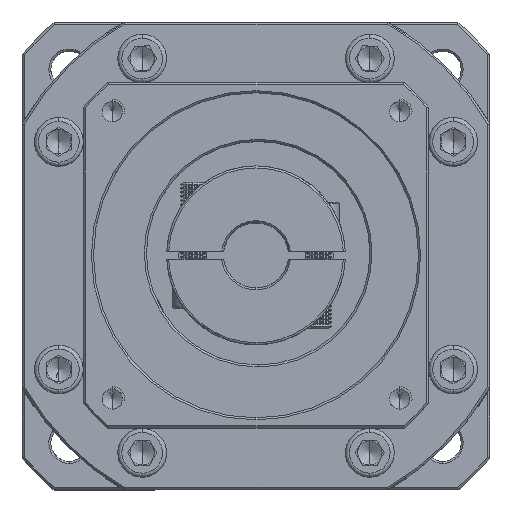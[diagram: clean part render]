
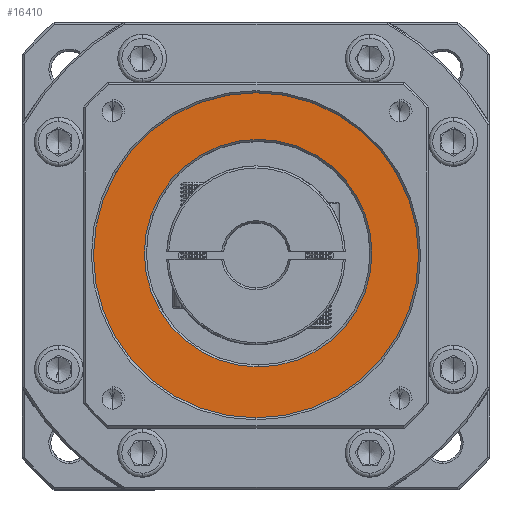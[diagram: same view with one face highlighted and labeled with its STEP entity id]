
A CAD part, top view. The second image highlights one B-rep face of the part: STEP entity #16410.
In plain terms, the highlighted planar face has unit normal (0, 0, 1).
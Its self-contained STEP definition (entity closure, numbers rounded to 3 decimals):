
#1302 = EDGE_CURVE ( 'NONE', #90148, #49900, #77164, .T. ) ;
#3820 = CARTESIAN_POINT ( 'NONE',  ( 60.483, 65.049, 11.527 ) ) ;
#9127 = CIRCLE ( 'NONE', #117879, 40. ) ;
#15139 = FACE_BOUND ( 'NONE', #119716, .T. ) ;
#15789 = ORIENTED_EDGE ( 'NONE', *, *, #1302, .T. ) ;
#15965 = AXIS2_PLACEMENT_3D ( 'NONE', #132218, #72249, #112929 ) ;
#16204 = CIRCLE ( 'NONE', #27482, 40. ) ;
#16410 = ADVANCED_FACE ( 'NONE', ( #48679, #15139 ), #71790, .T. ) ;
#16653 = CIRCLE ( 'NONE', #129131, 28. ) ;
#17889 = CARTESIAN_POINT ( 'NONE',  ( 60.483, 37.049, 11.527 ) ) ;
#19540 = EDGE_CURVE ( 'NONE', #115005, #124550, #16204, .T. ) ;
#21644 = DIRECTION ( 'NONE',  ( 0., 0., -1. ) ) ;
#23216 = EDGE_CURVE ( 'NONE', #124550, #115005, #9127, .T. ) ;
#27482 = AXIS2_PLACEMENT_3D ( 'NONE', #108776, #37728, #119526 ) ;
#28184 = CARTESIAN_POINT ( 'NONE',  ( 59.949, 104.508, 11.527 ) ) ;
#37728 = DIRECTION ( 'NONE',  ( 0., 0., 1. ) ) ;
#40822 = DIRECTION ( 'NONE',  ( 0., -1., 0. ) ) ;
#48679 = FACE_OUTER_BOUND ( 'NONE', #119632, .T. ) ;
#49900 = VERTEX_POINT ( 'NONE', #17889 ) ;
#61969 = CARTESIAN_POINT ( 'NONE',  ( 60.483, 93.049, 11.527 ) ) ;
#62553 = CARTESIAN_POINT ( 'NONE',  ( 59.949, 24.508, 11.527 ) ) ;
#64120 = ORIENTED_EDGE ( 'NONE', *, *, #19540, .T. ) ;
#66185 = ORIENTED_EDGE ( 'NONE', *, *, #87080, .T. ) ;
#71790 = PLANE ( 'NONE',  #15965 ) ;
#72249 = DIRECTION ( 'NONE',  ( 0., 0., 1. ) ) ;
#77164 = CIRCLE ( 'NONE', #94095, 28. ) ;
#82752 = CARTESIAN_POINT ( 'NONE',  ( 60.483, 65.049, 11.527 ) ) ;
#87080 = EDGE_CURVE ( 'NONE', #49900, #90148, #16653, .T. ) ;
#89945 = CARTESIAN_POINT ( 'NONE',  ( 59.949, 64.508, 11.527 ) ) ;
#90148 = VERTEX_POINT ( 'NONE', #61969 ) ;
#94095 = AXIS2_PLACEMENT_3D ( 'NONE', #3820, #95300, #94861 ) ;
#94861 = DIRECTION ( 'NONE',  ( 0., -1., 0. ) ) ;
#95300 = DIRECTION ( 'NONE',  ( 0., 0., -1. ) ) ;
#101578 = DIRECTION ( 'NONE',  ( 0., -1., 0. ) ) ;
#108776 = CARTESIAN_POINT ( 'NONE',  ( 59.949, 64.508, 11.527 ) ) ;
#112929 = DIRECTION ( 'NONE',  ( 0., -1., 0. ) ) ;
#115005 = VERTEX_POINT ( 'NONE', #28184 ) ;
#117879 = AXIS2_PLACEMENT_3D ( 'NONE', #89945, #120879, #101578 ) ;
#119526 = DIRECTION ( 'NONE',  ( 0., -1., 0. ) ) ;
#119632 = EDGE_LOOP ( 'NONE', ( #126052, #64120 ) ) ;
#119716 = EDGE_LOOP ( 'NONE', ( #66185, #15789 ) ) ;
#120879 = DIRECTION ( 'NONE',  ( 0., 0., 1. ) ) ;
#124550 = VERTEX_POINT ( 'NONE', #62553 ) ;
#126052 = ORIENTED_EDGE ( 'NONE', *, *, #23216, .T. ) ;
#129131 = AXIS2_PLACEMENT_3D ( 'NONE', #82752, #21644, #40822 ) ;
#132218 = CARTESIAN_POINT ( 'NONE',  ( 59.949, 64.508, 11.527 ) ) ;
